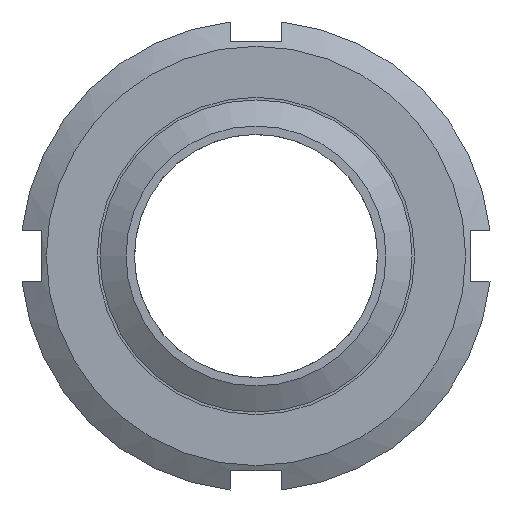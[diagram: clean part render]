
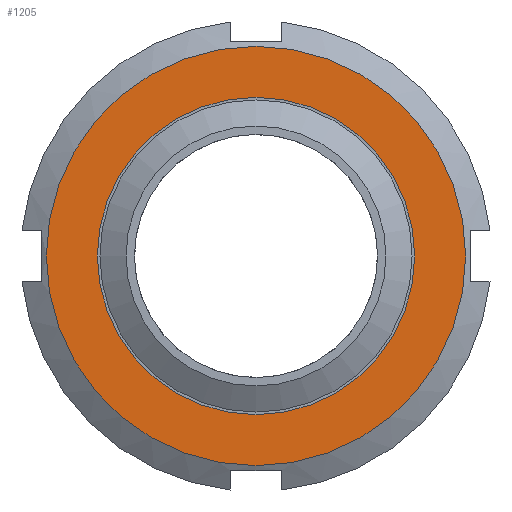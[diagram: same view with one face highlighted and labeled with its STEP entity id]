
A CAD part, front view. The second image highlights one B-rep face of the part: STEP entity #1205.
In plain terms, the highlighted planar face has unit normal (0, -1, 0) as drawn and (1, 0, 0) by its records, which use the part's own axes.
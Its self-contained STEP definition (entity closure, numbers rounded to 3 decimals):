
#170=FACE_BOUND('',#321,.T.);
#194=PLANE('',#1489);
#251=FACE_OUTER_BOUND('',#320,.T.);
#320=EDGE_LOOP('',(#1069,#1070));
#321=EDGE_LOOP('',(#1071,#1072));
#421=CIRCLE('',#1469,40.972);
#422=CIRCLE('',#1470,40.972);
#433=CIRCLE('',#1490,31.);
#434=CIRCLE('',#1491,31.);
#549=VERTEX_POINT('',#2247);
#550=VERTEX_POINT('',#2248);
#561=VERTEX_POINT('',#2304);
#562=VERTEX_POINT('',#2305);
#710=EDGE_CURVE('',#549,#550,#421,.T.);
#711=EDGE_CURVE('',#550,#549,#422,.T.);
#734=EDGE_CURVE('',#561,#562,#433,.T.);
#735=EDGE_CURVE('',#562,#561,#434,.T.);
#1069=ORIENTED_EDGE('',*,*,#710,.T.);
#1070=ORIENTED_EDGE('',*,*,#711,.T.);
#1071=ORIENTED_EDGE('',*,*,#734,.F.);
#1072=ORIENTED_EDGE('',*,*,#735,.F.);
#1205=ADVANCED_FACE('',(#251,#170),#194,.T.);
#1469=AXIS2_PLACEMENT_3D('',#2249,#1822,#1823);
#1470=AXIS2_PLACEMENT_3D('',#2250,#1824,#1825);
#1489=AXIS2_PLACEMENT_3D('',#2303,#1868,#1869);
#1490=AXIS2_PLACEMENT_3D('',#2306,#1870,#1871);
#1491=AXIS2_PLACEMENT_3D('',#2307,#1872,#1873);
#1822=DIRECTION('center_axis',(1.,0.,0.));
#1823=DIRECTION('ref_axis',(0.,0.,-1.));
#1824=DIRECTION('center_axis',(1.,0.,0.));
#1825=DIRECTION('ref_axis',(0.,0.,-1.));
#1868=DIRECTION('center_axis',(1.,0.,0.));
#1869=DIRECTION('ref_axis',(0.,0.,-1.));
#1870=DIRECTION('center_axis',(1.,0.,0.));
#1871=DIRECTION('ref_axis',(0.,0.,-1.));
#1872=DIRECTION('center_axis',(1.,0.,0.));
#1873=DIRECTION('ref_axis',(0.,0.,-1.));
#2247=CARTESIAN_POINT('',(22.,40.972,0.));
#2248=CARTESIAN_POINT('',(22.,-40.972,0.));
#2249=CARTESIAN_POINT('Origin',(22.,0.,0.));
#2250=CARTESIAN_POINT('Origin',(22.,0.,0.));
#2303=CARTESIAN_POINT('Origin',(22.,31.,0.));
#2304=CARTESIAN_POINT('',(22.,31.,0.));
#2305=CARTESIAN_POINT('',(22.,-31.,0.));
#2306=CARTESIAN_POINT('Origin',(22.,0.,0.));
#2307=CARTESIAN_POINT('Origin',(22.,0.,0.));
